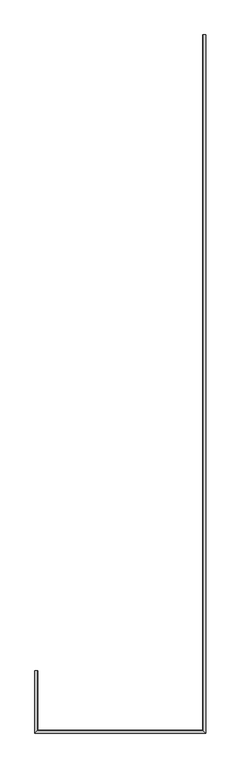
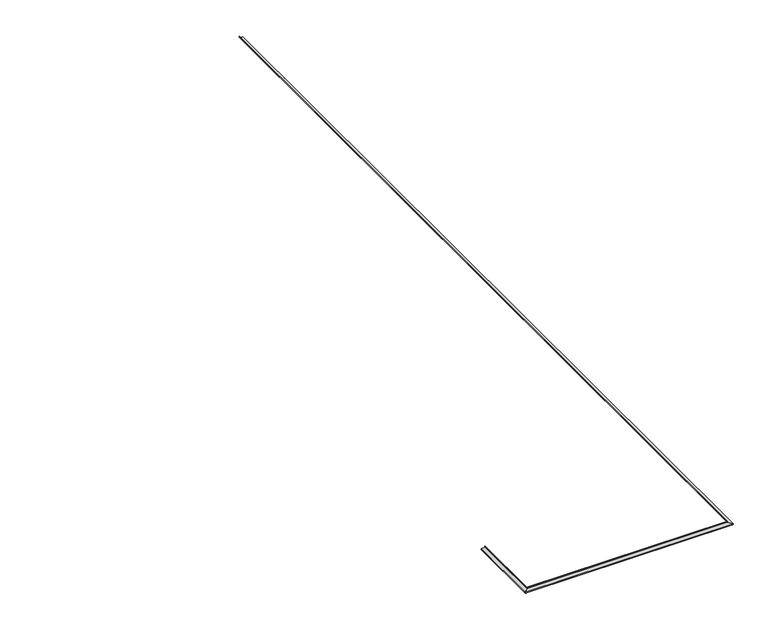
"""IFC4 building model written with IfcOpenShell, lengths in millimetres: proxy geometry, Карниз6 : Карниз."""

from ifc_helpers import new_model, si_unit, origin, place, context, project, spatial, faceted_brep, source, transform, mapped, element, save


def generic_models_c3cffa9f(model_context):
    return source(origin(), model_context, "Body", "Brep", [
        faceted_brep([(17100.0, 21200.0, 114.9877934), (17100.0, 21200.0, 144.9877934), (17103.0, 21200.0, 144.9877934), (17103.0, 21200.0, 117.5050923), (17194.7848515, 21200.0, 101.3209465), (17194.7848515, 21200.0, 79.5093488), (17188.0, 21200.0, 72.7244973), (17188.0, 21200.0, 67.7244973), (17185.0, 21200.0, 67.7244973), (17185.0, 21200.0, 72.7244973), (17191.7848515, 21200.0, 79.5093488), (17191.7848515, 21200.0, 98.8036476), (12000.0, 1535.3517467, 114.9877934), (11908.2151485, 1535.3517467, 98.8036476), (11908.2151485, 1535.3517467, 79.5093488), (11915.0, 1535.3517467, 72.7244973), (11915.0, 1535.3517467, 67.7244973), (11912.0, 1535.3517467, 67.7244973), (11912.0, 1535.3517467, 72.7244973), (11905.2151485, 1535.3517467, 79.5093488), (11905.2151485, 1535.3517467, 101.3209465), (11997.0, 1535.3517467, 117.5050923), (11997.0, 1535.3517467, 144.9877934), (12000.0, 1535.3517467, 144.9877934), (17100.0, -300.0, 114.9877934), (17100.0, -300.0, 144.9877934), (17103.0, -303.0, 144.9877934), (17103.0, -303.0, 117.5050923), (17194.7848515, -394.7848515, 101.3209465), (17194.7848515, -394.7848515, 79.5093488), (17188.0, -388.0, 72.7244973), (17188.0, -388.0, 67.7244973), (17185.0, -385.0, 67.7244973), (17185.0, -385.0, 72.7244973), (17191.7848515, -391.7848515, 79.5093488), (17191.7848515, -391.7848515, 98.8036476), (12000.0, -300.0, 144.9877934), (11997.0, -303.0, 144.9877934), (11912.0, -388.0, 67.7244973), (11915.0, -385.0, 67.7244973), (12000.0, -300.0, 114.9877934), (11997.0, -303.0, 117.5050923), (11905.2151485, -394.7848515, 101.3209465), (11905.2151485, -394.7848515, 79.5093488), (11912.0, -388.0, 72.7244973), (11915.0, -385.0, 72.7244973), (11908.2151485, -391.7848515, 79.5093488), (11908.2151485, -391.7848515, 98.8036476)], [[[0, 1, 2, 3, 4, 5, 6, 7, 8, 9, 10, 11]], [[12, 13, 14, 15, 16, 17, 18, 19, 20, 21, 22, 23]], [[1, 0, 24, 25]], [[3, 2, 26, 27]], [[4, 3, 27, 28]], [[5, 4, 28, 29]], [[6, 5, 29, 30]], [[7, 6, 30, 31]], [[9, 8, 32, 33]], [[10, 9, 33, 34]], [[11, 10, 34, 35]], [[0, 11, 35, 24]], [[2, 1, 25, 36, 23, 22, 37, 26]], [[8, 7, 31, 38, 17, 16, 39, 32]], [[25, 24, 40, 36]], [[27, 26, 37, 41]], [[28, 27, 41, 42]], [[29, 28, 42, 43]], [[30, 29, 43, 44]], [[31, 30, 44, 38]], [[33, 32, 39, 45]], [[34, 33, 45, 46]], [[35, 34, 46, 47]], [[24, 35, 47, 40]], [[36, 40, 12, 23]], [[41, 37, 22, 21]], [[42, 41, 21, 20]], [[43, 42, 20, 19]], [[44, 43, 19, 18]], [[38, 44, 18, 17]], [[45, 39, 16, 15]], [[46, 45, 15, 14]], [[47, 46, 14, 13]], [[40, 47, 13, 12]]]),
    ])


if __name__ == "__main__":
    model = new_model("IFC4")
    model_context = context("Model", 3, world=origin())
    ifc_project = project(units=[si_unit("LENGTHUNIT", "METRE", prefix="MILLI")], contexts=[model_context])
    site = spatial("IfcSite", under=ifc_project)
    building = spatial("IfcBuilding", under=site)
    placement = place(None, origin())
    generic_models_shape = generic_models_c3cffa9f(model_context)
    element("IfcBuildingElementProxy", 1, Name="Карниз6 : Карниз", ObjectType="Карниз6 : Карниз", at=placement, inside=building, context=model_context, shape_type="MappedRepresentation", body=[
        mapped(generic_models_shape, transform((0.0, 0.0, 0.0), x_axis=(1.0, 0.0, 0.0), y_axis=(0.0, 1.0, 0.0), z_axis=(0.0, 0.0, 1.0))),
    ])
    save(model, "model.ifc")
